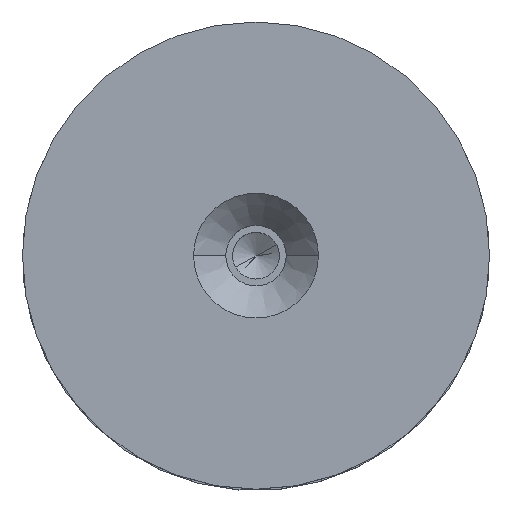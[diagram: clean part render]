
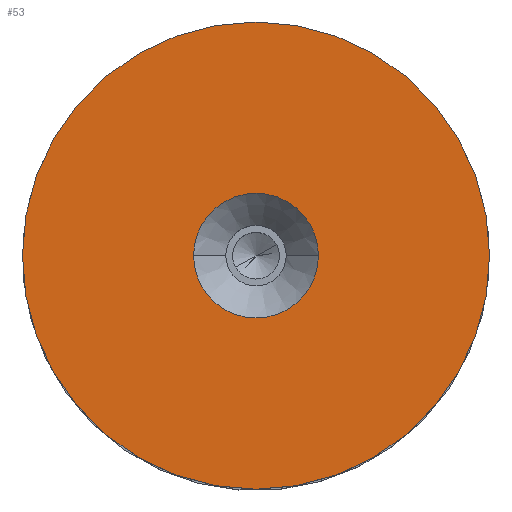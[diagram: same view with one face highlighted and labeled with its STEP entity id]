
A CAD part, top view. The second image highlights one B-rep face of the part: STEP entity #53.
In plain terms, the highlighted planar face has unit normal (0, 0, 1).
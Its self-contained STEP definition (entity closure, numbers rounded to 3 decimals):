
#9 = ORIENTED_EDGE ( 'NONE', *, *, #773, .T. ) ;
#11 = AXIS2_PLACEMENT_3D ( 'NONE', #398, #402, #406 ) ;
#26 = DIRECTION ( 'NONE',  ( 1., 0., 0. ) ) ;
#52 = CIRCLE ( 'NONE', #777, 11.35 ) ;
#53 = ADVANCED_FACE ( 'NONE', ( #839, #164 ), #261, .T. ) ;
#81 = AXIS2_PLACEMENT_3D ( 'NONE', #689, #694, #698 ) ;
#117 = CIRCLE ( 'NONE', #81, 11.35 ) ;
#134 = CARTESIAN_POINT ( 'NONE',  ( 42.5, 0., 10. ) ) ;
#139 = AXIS2_PLACEMENT_3D ( 'NONE', #328, #712, #339 ) ;
#153 = ORIENTED_EDGE ( 'NONE', *, *, #276, .T. ) ;
#164 = FACE_OUTER_BOUND ( 'NONE', #533, .T. ) ;
#185 = DIRECTION ( 'NONE',  ( 0., 0., 1. ) ) ;
#189 = VERTEX_POINT ( 'NONE', #573 ) ;
#201 = EDGE_LOOP ( 'NONE', ( #399, #504 ) ) ;
#261 = PLANE ( 'NONE',  #139 ) ;
#276 = EDGE_CURVE ( 'NONE', #558, #189, #560, .T. ) ;
#314 = EDGE_CURVE ( 'NONE', #849, #440, #52, .T. ) ;
#328 = CARTESIAN_POINT ( 'NONE',  ( 0., 0., 10. ) ) ;
#339 = DIRECTION ( 'NONE',  ( 1., 0., 0. ) ) ;
#376 = CARTESIAN_POINT ( 'NONE',  ( -11.35, 0., 10. ) ) ;
#398 = CARTESIAN_POINT ( 'NONE',  ( 0., 0., 10. ) ) ;
#399 = ORIENTED_EDGE ( 'NONE', *, *, #401, .T. ) ;
#401 = EDGE_CURVE ( 'NONE', #440, #849, #117, .T. ) ;
#402 = DIRECTION ( 'NONE',  ( 0., 0., 1. ) ) ;
#406 = DIRECTION ( 'NONE',  ( 1., 0., 0. ) ) ;
#440 = VERTEX_POINT ( 'NONE', #709 ) ;
#504 = ORIENTED_EDGE ( 'NONE', *, *, #314, .T. ) ;
#517 = AXIS2_PLACEMENT_3D ( 'NONE', #551, #185, #26 ) ;
#533 = EDGE_LOOP ( 'NONE', ( #9, #153 ) ) ;
#547 = CARTESIAN_POINT ( 'NONE',  ( 0., 0., 10. ) ) ;
#551 = CARTESIAN_POINT ( 'NONE',  ( 0., 0., 10. ) ) ;
#552 = DIRECTION ( 'NONE',  ( 0., 0., -1. ) ) ;
#557 = DIRECTION ( 'NONE',  ( 1., 0., 0. ) ) ;
#558 = VERTEX_POINT ( 'NONE', #134 ) ;
#560 = CIRCLE ( 'NONE', #11, 42.5 ) ;
#573 = CARTESIAN_POINT ( 'NONE',  ( -42.5, 0., 10. ) ) ;
#654 = CIRCLE ( 'NONE', #517, 42.5 ) ;
#689 = CARTESIAN_POINT ( 'NONE',  ( 0., 0., 10. ) ) ;
#694 = DIRECTION ( 'NONE',  ( 0., 0., -1. ) ) ;
#698 = DIRECTION ( 'NONE',  ( 1., 0., 0. ) ) ;
#709 = CARTESIAN_POINT ( 'NONE',  ( 11.35, 0., 10. ) ) ;
#712 = DIRECTION ( 'NONE',  ( 0., 0., 1. ) ) ;
#773 = EDGE_CURVE ( 'NONE', #189, #558, #654, .T. ) ;
#777 = AXIS2_PLACEMENT_3D ( 'NONE', #547, #552, #557 ) ;
#839 = FACE_BOUND ( 'NONE', #201, .T. ) ;
#849 = VERTEX_POINT ( 'NONE', #376 ) ;
